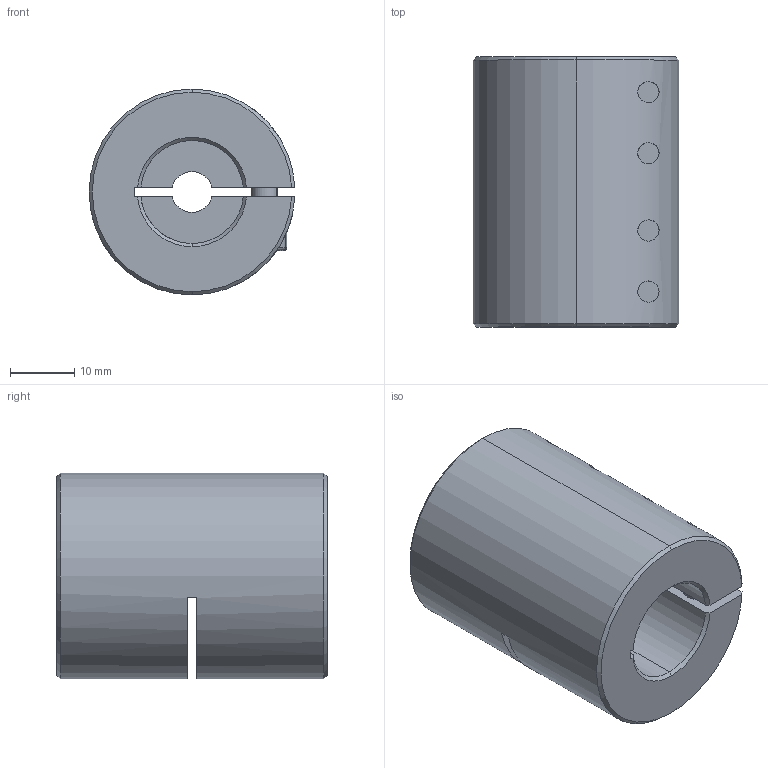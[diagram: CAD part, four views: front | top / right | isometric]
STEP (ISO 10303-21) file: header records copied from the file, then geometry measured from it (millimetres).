
FILE_DESCRIPTION (( 'STEP AP203' ), '1' );
FILE_NAME ('LL-B-D32L42-6.35-16.STEP', '2021-11-05T07:38:59', ( '' ), ( '' ), 'SwSTEP 2.0', 'SolidWorks 2018', '' );
FILE_SCHEMA (( 'CONFIG_CONTROL_DESIGN' ));
Length unit declared in the file: millimetre
Products named in the file (1): LL-B-D32L42-6.35-16
Bounding box: 31.98 x 42 x 32 mm (x, y, z)
Volume: 26408.5 mm3; surface area: 10339.2 mm2
Topology: 1 solids, 1 shells, 192 faces, 489 edges, 307 vertices
Faces by surface type: plane 88, cylinder 76, cone 20, torus 8
Entity records: 6343 total; most frequent: CARTESIAN_POINT 1553, DIRECTION 1032, ORIENTED_EDGE 962, EDGE_CURVE 481, AXIS2_PLACEMENT_3D 402, VERTEX_POINT 307, VECTOR 228, LINE 228
